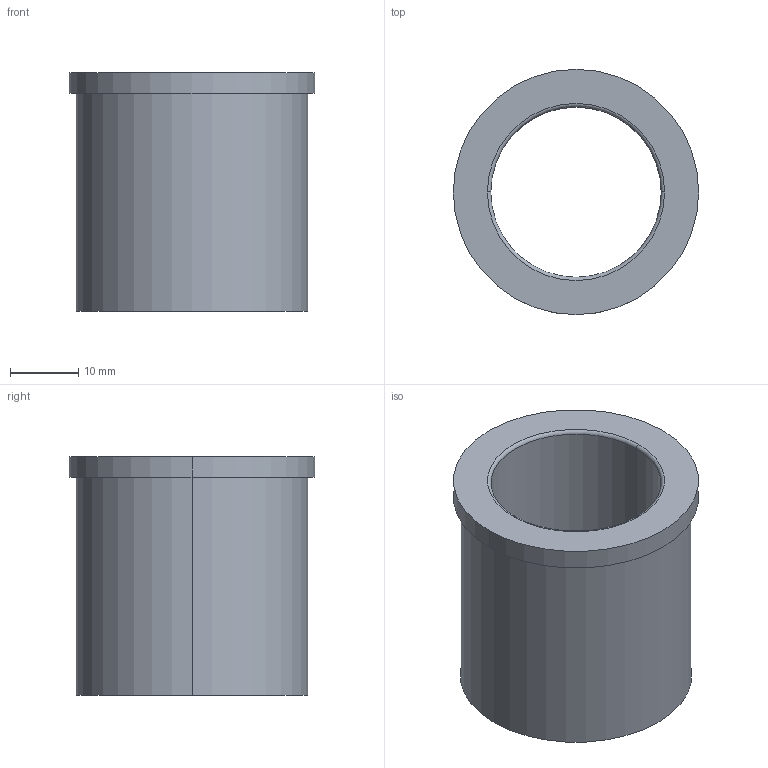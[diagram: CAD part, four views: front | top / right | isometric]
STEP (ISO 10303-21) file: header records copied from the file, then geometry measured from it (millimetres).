
FILE_DESCRIPTION(/* description */ (''),/* implementation_level */ '2;1');
FILE_NAME(/* name */ '3d_sghz25-35_00315_r00.stp',/* time_stamp */ '2011-01-10T14:11:10+09:00',/* author */ ('MISUMI'),/* organization */ (''),/* preprocessor_version */ 'ST-DEVELOPER v11',/* originating_system */ 'UGS - NX 5.0',/* authorisation */ '');
FILE_SCHEMA (('CONFIG_CONTROL_DESIGN'));
Length unit declared in the file: millimetre
Products named in the file (1): 3d_sghz25-35_00315_r00
Bounding box: 36 x 36 x 35 mm (x, y, z)
Volume: 14918 mm3; surface area: 7526.8 mm2
Topology: 1 solids, 1 shells, 13 faces, 26 edges, 16 vertices
Faces by surface type: cylinder 6, torus 4, plane 3
Entity records: 438 total; most frequent: DIRECTION 74, CARTESIAN_POINT 56, ORIENTED_EDGE 52, AXIS2_PLACEMENT_3D 34, EDGE_CURVE 26, CIRCLE 20, EDGE_LOOP 16, VERTEX_POINT 16
